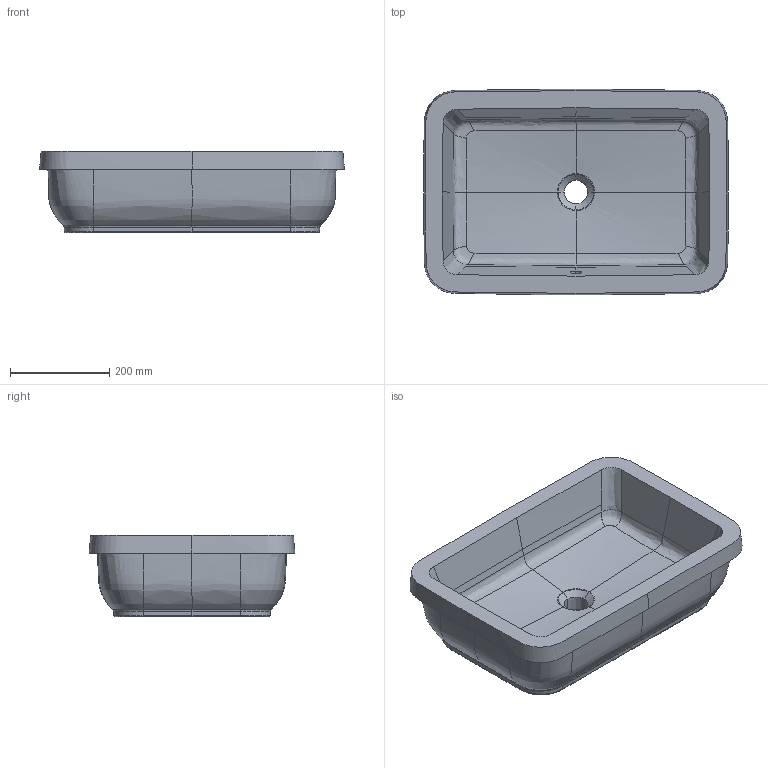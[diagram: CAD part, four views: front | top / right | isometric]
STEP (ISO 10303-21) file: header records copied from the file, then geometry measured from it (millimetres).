
FILE_DESCRIPTION(/* description */ (''),/* implementation_level */ '2;1');
FILE_NAME(/* name */ '417760_Matrix_Eckig_UWT.stp',/* time_stamp */ '2019-02-18T13:24:55+01:00',/* author */ (''),/* organization */ (''),/* preprocessor_version */ 'ST-DEVELOPER v16',/* originating_system */ 'SIEMENS PLM Software NX 10.0',/* authorisation */ '');
FILE_SCHEMA (('AUTOMOTIVE_DESIGN { 1 0 10303 214 3 1 1 1 }'));
Length unit declared in the file: millimetre
Products named in the file (1): math227069EC3yog
Bounding box: 615.13 x 415.13 x 164 mm (x, y, z)
Volume: 17193707.5 mm3; surface area: 863515.3 mm2
Topology: 1 solids, 1 shells, 110 faces, 280 edges, 174 vertices
Faces by surface type: bspline 101, extrusion 6, plane 3
Entity records: 18032 total; most frequent: CARTESIAN_POINT 16204, ORIENTED_EDGE 560, EDGE_CURVE 280, B_SPLINE_CURVE_WITH_KNOTS 222, VERTEX_POINT 174, EDGE_LOOP 114, ADVANCED_FACE 110, FACE_OUTER_BOUND 106
